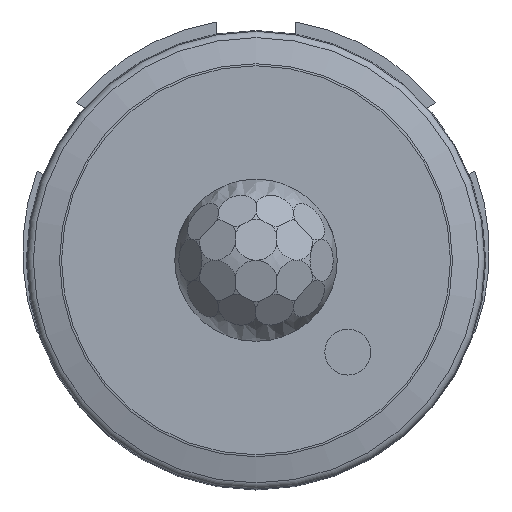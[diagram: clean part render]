
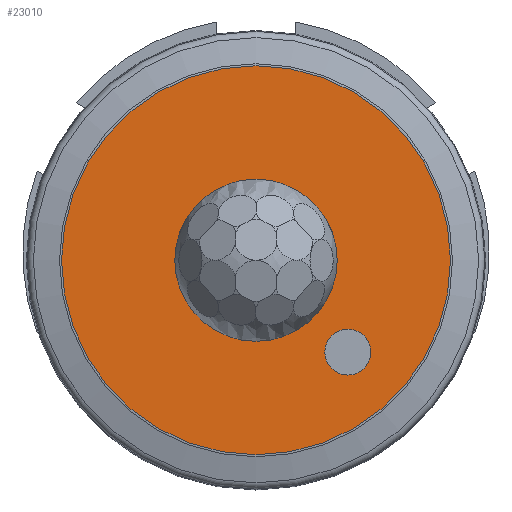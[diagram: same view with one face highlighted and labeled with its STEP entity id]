
A CAD part, front view. The second image highlights one B-rep face of the part: STEP entity #23010.
In plain terms, the highlighted planar face has unit normal (0, -1, 0).
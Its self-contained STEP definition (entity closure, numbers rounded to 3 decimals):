
#703 = EDGE_LOOP ( 'NONE', ( #13812 ) ) ;
#1702 = FACE_BOUND ( 'NONE', #14880, .T. ) ;
#2179 = FACE_BOUND ( 'NONE', #703, .T. ) ;
#2619 = EDGE_CURVE ( 'NONE', #15577, #15577, #6417, .T. ) ;
#3518 = DIRECTION ( 'NONE',  ( 0., 0., 1. ) ) ;
#3956 = CARTESIAN_POINT ( 'NONE',  ( 0., -3.09, 0. ) ) ;
#5144 = CIRCLE ( 'NONE', #8235, 1.4 ) ;
#5174 = CARTESIAN_POINT ( 'NONE',  ( 5.586, -3.09, -4.186 ) ) ;
#5652 = AXIS2_PLACEMENT_3D ( 'NONE', #3956, #20409, #9538 ) ;
#5811 = PLANE ( 'NONE',  #17952 ) ;
#6417 = CIRCLE ( 'NONE', #5652, 4.935 ) ;
#7190 = ORIENTED_EDGE ( 'NONE', *, *, #17122, .F. ) ;
#7859 = CIRCLE ( 'NONE', #21363, 11.834 ) ;
#8235 = AXIS2_PLACEMENT_3D ( 'NONE', #21687, #21572, #20106 ) ;
#9538 = DIRECTION ( 'NONE',  ( 0., 0., 1. ) ) ;
#10502 = VERTEX_POINT ( 'NONE', #5174 ) ;
#11062 = EDGE_CURVE ( 'NONE', #14490, #14490, #7859, .T. ) ;
#11275 = DIRECTION ( 'NONE',  ( 0., 1., 0. ) ) ;
#11388 = FACE_OUTER_BOUND ( 'NONE', #14036, .T. ) ;
#11946 = CARTESIAN_POINT ( 'NONE',  ( 0., -3.09, 0. ) ) ;
#13812 = ORIENTED_EDGE ( 'NONE', *, *, #2619, .T. ) ;
#14036 = EDGE_LOOP ( 'NONE', ( #20008 ) ) ;
#14490 = VERTEX_POINT ( 'NONE', #18109 ) ;
#14880 = EDGE_LOOP ( 'NONE', ( #7190 ) ) ;
#15577 = VERTEX_POINT ( 'NONE', #17501 ) ;
#16684 = CARTESIAN_POINT ( 'NONE',  ( -15.385, -3.09, -14.201 ) ) ;
#17122 = EDGE_CURVE ( 'NONE', #10502, #10502, #5144, .T. ) ;
#17368 = DIRECTION ( 'NONE',  ( 0., 0., 1. ) ) ;
#17501 = CARTESIAN_POINT ( 'NONE',  ( 0., -3.09, 4.935 ) ) ;
#17952 = AXIS2_PLACEMENT_3D ( 'NONE', #16684, #11275, #3518 ) ;
#18109 = CARTESIAN_POINT ( 'NONE',  ( 0., -3.09, 11.834 ) ) ;
#20008 = ORIENTED_EDGE ( 'NONE', *, *, #11062, .F. ) ;
#20106 = DIRECTION ( 'NONE',  ( 0., 0., 1. ) ) ;
#20409 = DIRECTION ( 'NONE',  ( 0., 1., 0. ) ) ;
#21363 = AXIS2_PLACEMENT_3D ( 'NONE', #11946, #21485, #17368 ) ;
#21485 = DIRECTION ( 'NONE',  ( 0., 1., 0. ) ) ;
#21572 = DIRECTION ( 'NONE',  ( 0., -1., 0. ) ) ;
#21687 = CARTESIAN_POINT ( 'NONE',  ( 5.586, -3.09, -5.586 ) ) ;
#23010 = ADVANCED_FACE ( 'NONE', ( #2179, #11388, #1702 ), #5811, .F. ) ;
